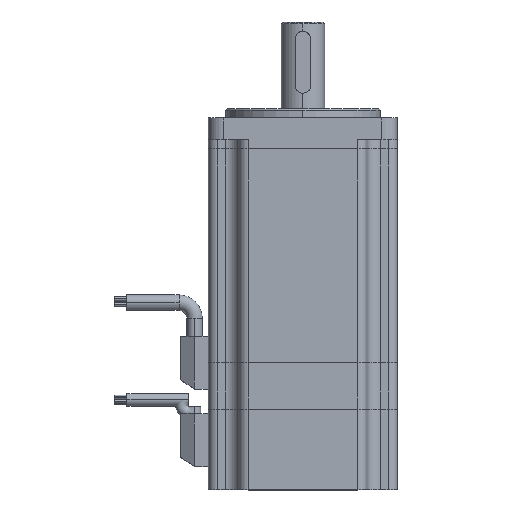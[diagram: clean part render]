
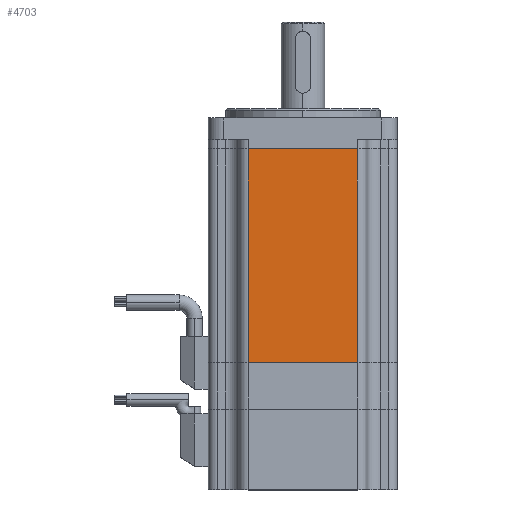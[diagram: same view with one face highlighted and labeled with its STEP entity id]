
A CAD part, top view. The second image highlights one B-rep face of the part: STEP entity #4703.
In plain terms, the highlighted planar face has unit normal (0, 0, 1).
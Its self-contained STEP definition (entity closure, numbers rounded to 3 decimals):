
#47 = LINE ( 'NONE', #5035, #806 ) ;
#563 = CARTESIAN_POINT ( 'NONE',  ( -17.6, 41., 30.5 ) ) ;
#574 = EDGE_CURVE ( 'NONE', #1099, #3396, #3241, .T. ) ;
#757 = ORIENTED_EDGE ( 'NONE', *, *, #4660, .T. ) ;
#806 = VECTOR ( 'NONE', #2499, 1000. ) ;
#1059 = EDGE_CURVE ( 'NONE', #1099, #4624, #47, .T. ) ;
#1088 = CARTESIAN_POINT ( 'NONE',  ( 17.6, 110., 30.5 ) ) ;
#1099 = VERTEX_POINT ( 'NONE', #1624 ) ;
#1319 = CARTESIAN_POINT ( 'NONE',  ( -17.6, 110., 30.5 ) ) ;
#1396 = CARTESIAN_POINT ( 'NONE',  ( 17.6, 110., 30.5 ) ) ;
#1598 = DIRECTION ( 'NONE',  ( 1., 0., 0. ) ) ;
#1624 = CARTESIAN_POINT ( 'NONE',  ( -17.6, 110., 30.5 ) ) ;
#1674 = EDGE_LOOP ( 'NONE', ( #757, #2174, #5828, #5004 ) ) ;
#1725 = DIRECTION ( 'NONE',  ( -1., 0., 0. ) ) ;
#1802 = CARTESIAN_POINT ( 'NONE',  ( 17.6, 41., 30.5 ) ) ;
#2151 = PLANE ( 'NONE',  #5760 ) ;
#2174 = ORIENTED_EDGE ( 'NONE', *, *, #5531, .F. ) ;
#2180 = DIRECTION ( 'NONE',  ( 0., 0., -1. ) ) ;
#2499 = DIRECTION ( 'NONE',  ( 0., -1., 0. ) ) ;
#2501 = CARTESIAN_POINT ( 'NONE',  ( -17.6, 41., 30.5 ) ) ;
#2760 = DIRECTION ( 'NONE',  ( 1., 0., 0. ) ) ;
#3084 = LINE ( 'NONE', #1088, #4830 ) ;
#3140 = DIRECTION ( 'NONE',  ( 0., -1., 0. ) ) ;
#3241 = LINE ( 'NONE', #1319, #4330 ) ;
#3377 = VECTOR ( 'NONE', #1598, 1000. ) ;
#3396 = VERTEX_POINT ( 'NONE', #1396 ) ;
#4001 = LINE ( 'NONE', #2501, #3377 ) ;
#4330 = VECTOR ( 'NONE', #2760, 1000. ) ;
#4580 = FACE_OUTER_BOUND ( 'NONE', #1674, .T. ) ;
#4624 = VERTEX_POINT ( 'NONE', #563 ) ;
#4660 = EDGE_CURVE ( 'NONE', #4624, #5220, #4001, .T. ) ;
#4703 = ADVANCED_FACE ( 'NONE', ( #4580 ), #2151, .F. ) ;
#4830 = VECTOR ( 'NONE', #3140, 1000. ) ;
#5004 = ORIENTED_EDGE ( 'NONE', *, *, #1059, .T. ) ;
#5035 = CARTESIAN_POINT ( 'NONE',  ( -17.6, 110., 30.5 ) ) ;
#5220 = VERTEX_POINT ( 'NONE', #1802 ) ;
#5531 = EDGE_CURVE ( 'NONE', #3396, #5220, #3084, .T. ) ;
#5760 = AXIS2_PLACEMENT_3D ( 'NONE', #6076, #2180, #1725 ) ;
#5828 = ORIENTED_EDGE ( 'NONE', *, *, #574, .F. ) ;
#6076 = CARTESIAN_POINT ( 'NONE',  ( -17.6, 110., 30.5 ) ) ;
